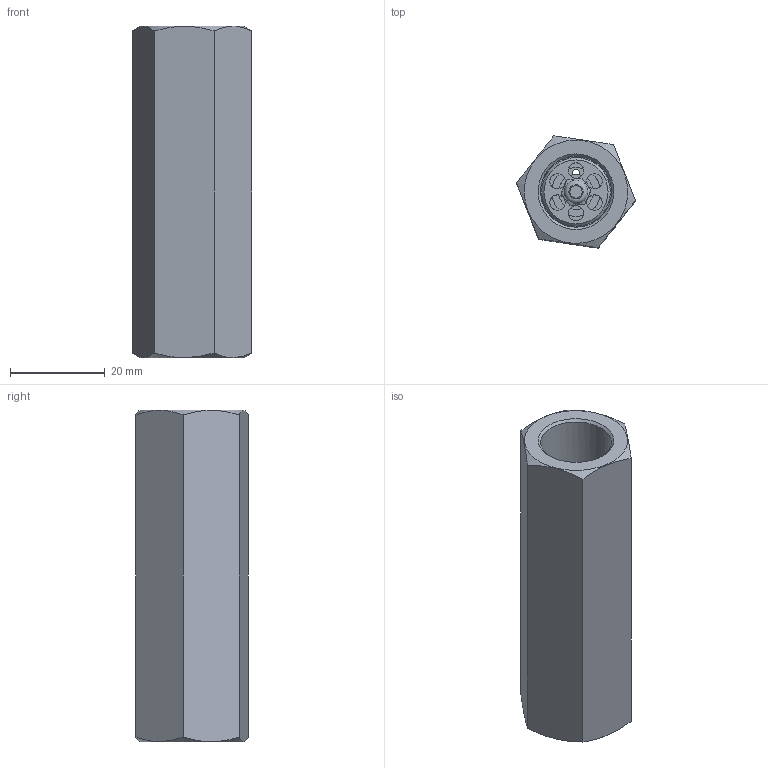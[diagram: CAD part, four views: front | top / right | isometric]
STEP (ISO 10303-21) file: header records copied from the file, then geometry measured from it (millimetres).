
FILE_DESCRIPTION(/* description */ ('Unknown'),/* implementation_level */ '2;1');
FILE_NAME(/* name */ 'VURPFF38',/* time_stamp */ '2024-12-05T10:45:26+01:00',/* author */ ('Unknown'),/* organization */ ('Unknown'),/* preprocessor_version */ 'ST-DEVELOPER v19.4',/* originating_system */ 'Solid Edge',/* authorisation */ 'Unknown');
FILE_SCHEMA (('AUTOMOTIVE_DESIGN {1 0 10303 214 3 1 1}'));
Length unit declared in the file: millimetre
Products named in the file (1): VURPFF38
Bounding box: 25.13 x 23.63 x 70 mm (x, y, z)
Volume: 18657.1 mm3; surface area: 10555.2 mm2
Topology: 1 solids, 1 shells, 92 faces, 222 edges, 138 vertices
Faces by surface type: plane 50, cylinder 21, cone 16, torus 4, bspline 1
Full cylindrical faces by diameter (mm): 1.5 x1, 3 x2, 3.25 x6, 4.4 x1, 5 x1, 5.5 x1, 7.3 x1, 10.35 x1, 12.55 x1, 13.66 x1, 14.5 x1, 14.95 x4
Entity records: 6583 total; most frequent: CARTESIAN_POINT 4019, DIRECTION 410, ORIENTED_EDGE 332, AXIS2_PLACEMENT_3D 190, EDGE_CURVE 166, EDGE_LOOP 148, FACE_BOUND 148, VERTEX_POINT 118
